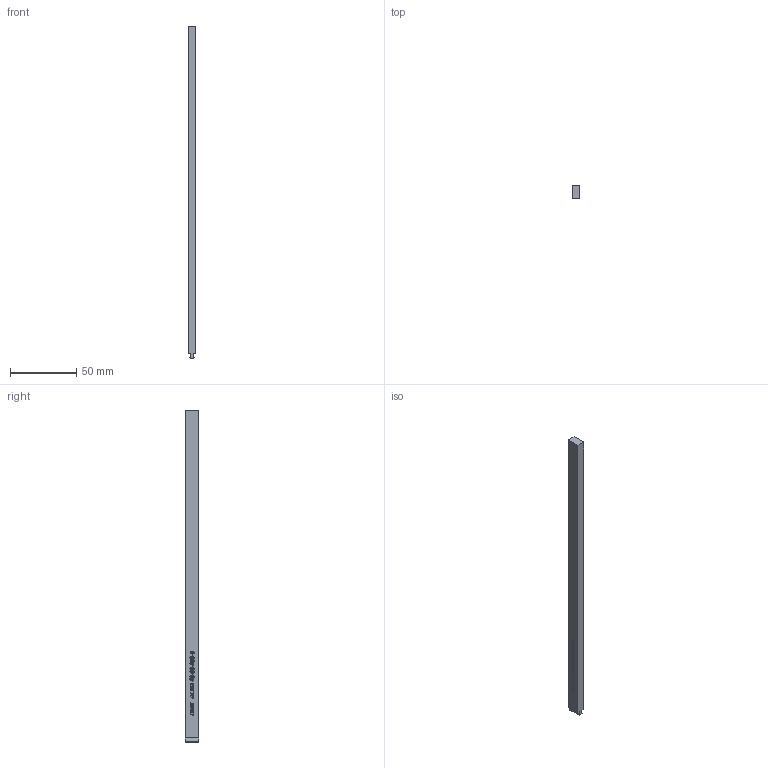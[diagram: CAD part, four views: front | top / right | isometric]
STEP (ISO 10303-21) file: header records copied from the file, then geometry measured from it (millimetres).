
FILE_DESCRIPTION (( 'STEP AP203' ), '1' );
FILE_NAME ('ALBD-10-06-250-5.STEP', '2021-01-11T20:27:10', ( '' ), ( '' ), 'SwSTEP 2.0', 'SolidWorks 2020', '' );
FILE_SCHEMA (( 'CONFIG_CONTROL_DESIGN' ));
Length unit declared in the file: millimetre
Products named in the file (1): ALBD-10-06-250-5
Bounding box: 6 x 10 x 250 mm (x, y, z)
Volume: 14879.7 mm3; surface area: 8138 mm2
Topology: 1 solids, 1 shells, 175 faces, 435 edges, 290 vertices
Faces by surface type: plane 131, bspline 44
Entity records: 6790 total; most frequent: CARTESIAN_POINT 2833, ORIENTED_EDGE 870, DIRECTION 611, EDGE_CURVE 435, VECTOR 347, LINE 347, VERTEX_POINT 290, EDGE_LOOP 203
